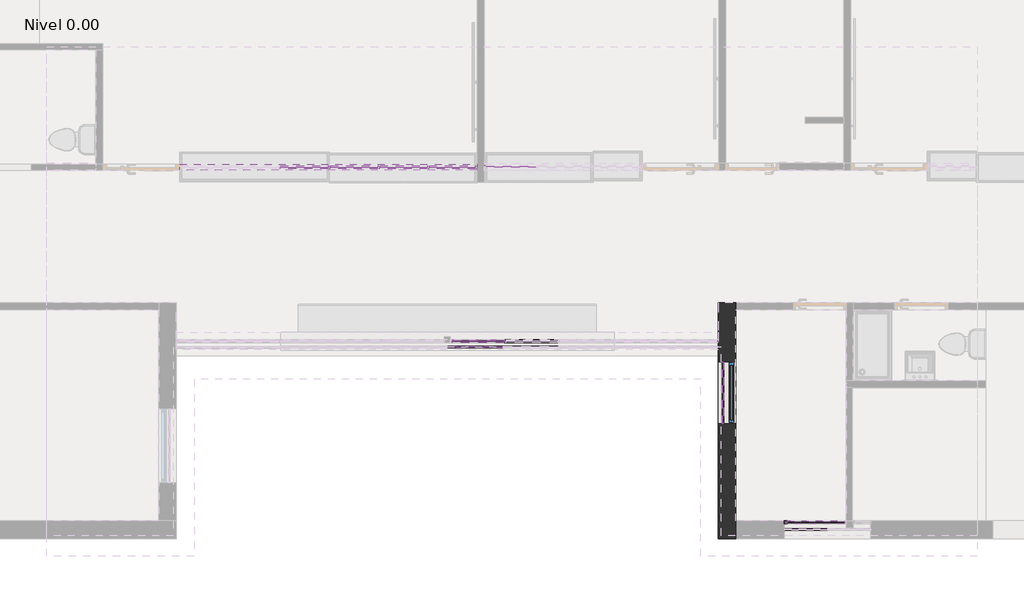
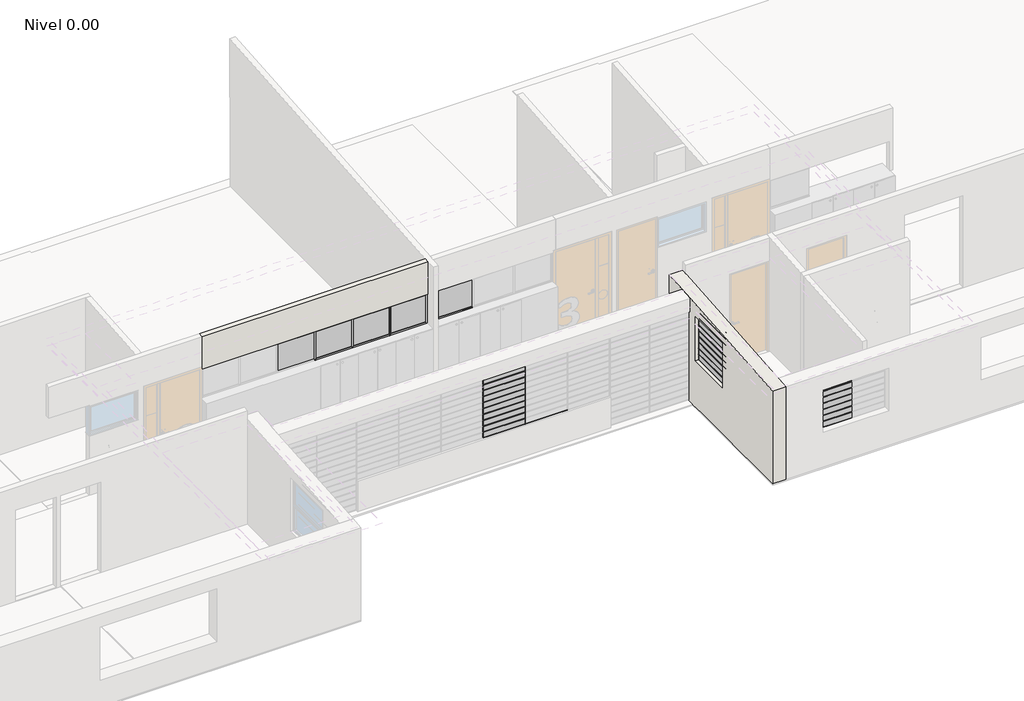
# One storey, part 6 of 27: 88 members, 35 plates, 2 walls, 1 window.
"""IFC4 building model written with IfcOpenShell, lengths in millimetres."""

from ifc_helpers import new_model, si_unit, origin, place, context, project, spatial, faceted_brep, transform, mapped, element, save
from components import circular_mullion_14d4c897, circular_mullion_0b75121d, l_corner_mullion_2c31851b, l_corner_mullion_3b3bdf5d, l_corner_mullion_e48bd2cc, rectangular_mullion_a87e72df, rectangular_mullion_a4ea75e5, rectangular_mullion_8e38926e, rectangular_mullion_22ee7f7e, rectangular_mullion_6697ab7a, rectangular_mullion_1d964787, rectangular_mullion_5c6d569c, rectangular_mullion_4dd96a3e, rectangular_mullion_127908d6, rectangular_mullion_2d022f73, rectangular_mullion_5442057b, rectangular_mullion_9a28259a, rectangular_mullion_af5448d7, system_panel_948e591e, system_panel_a232d2f8, system_panel_3d32e46b, system_panel_766ca25a, system_panel_aec64191, system_panel_3b88cb66, system_panel_glazed_aa347208, system_panel_glazed_ecabccd1, system_panel_glazed_4456bc43, system_panel_glazed_bfee9a3a, system_panel_glazed_296a7ac9, system_panel_glazed_04eec869, vp_1250x1250mm_90614fad

model = new_model("IFC4")

# Units and contexts
model_context = context("Model", 3, world=origin())
ifc_project = project(units=[si_unit("LENGTHUNIT", "METRE", prefix="MILLI")], contexts=[model_context])

# Site, building, storey
site = spatial("IfcSite", under=ifc_project)
building = spatial("IfcBuilding", under=site)
storey = spatial("IfcBuildingStorey", under=building, Name="Nivel 0.00", Elevation=0.0)

# Members
placement = place(None, origin())
circular_mullion_shape = circular_mullion_14d4c897(model_context)
element("IfcMember", 1, ObjectType="Circular Mullion : ARQ_HERR_16mm", at=placement, inside=storey, context=model_context, shape_type="MappedRepresentation", body=[
    mapped(circular_mullion_shape, transform((-431.312506, -3840.5609004, 840.0), x_axis=(0.0, 0.0, 1.0), y_axis=(0.0, -1.0, 0.0), z_axis=(1.0, 0.0, 0.0))),
])
element("IfcMember", 2, ObjectType="Circular Mullion : ARQ_HERR_16mm", at=placement, inside=storey, context=model_context, shape_type="MappedRepresentation", body=[
    mapped(circular_mullion_shape, transform((-431.312506, -3840.5609004, 980.0), x_axis=(0.0, 0.0, 1.0), y_axis=(0.0, -1.0, 0.0), z_axis=(1.0, 0.0, 0.0))),
])
element("IfcMember", 3, ObjectType="Circular Mullion : ARQ_HERR_16mm", at=placement, inside=storey, context=model_context, shape_type="MappedRepresentation", body=[
    mapped(circular_mullion_shape, transform((-431.312506, -3840.5609004, 1120.0), x_axis=(0.0, 0.0, 1.0), y_axis=(0.0, -1.0, 0.0), z_axis=(1.0, 0.0, 0.0))),
])
element("IfcMember", 4, ObjectType="Circular Mullion : ARQ_HERR_16mm", at=placement, inside=storey, context=model_context, shape_type="MappedRepresentation", body=[
    mapped(circular_mullion_shape, transform((-431.312506, -3840.5609004, 1260.0), x_axis=(0.0, 0.0, 1.0), y_axis=(0.0, -1.0, 0.0), z_axis=(1.0, 0.0, 0.0))),
])
element("IfcMember", 5, ObjectType="Circular Mullion : ARQ_HERR_16mm", at=placement, inside=storey, context=model_context, shape_type="MappedRepresentation", body=[
    mapped(circular_mullion_shape, transform((-431.312506, -3840.5609004, 1400.0), x_axis=(0.0, 0.0, 1.0), y_axis=(0.0, -1.0, 0.0), z_axis=(1.0, 0.0, 0.0))),
])
element("IfcMember", 6, ObjectType="Circular Mullion : ARQ_HERR_16mm", at=placement, inside=storey, context=model_context, shape_type="MappedRepresentation", body=[
    mapped(circular_mullion_shape, transform((-431.312506, -3840.5609004, 1540.0), x_axis=(0.0, 0.0, 1.0), y_axis=(0.0, -1.0, 0.0), z_axis=(1.0, 0.0, 0.0))),
])
element("IfcMember", 7, ObjectType="Circular Mullion : ARQ_HERR_16mm", at=placement, inside=storey, context=model_context, shape_type="MappedRepresentation", body=[
    mapped(circular_mullion_shape, transform((-431.312506, -3840.5609004, 1680.0), x_axis=(0.0, 0.0, 1.0), y_axis=(0.0, -1.0, 0.0), z_axis=(1.0, 0.0, 0.0))),
])
element("IfcMember", 8, ObjectType="Circular Mullion : ARQ_HERR_16mm", at=placement, inside=storey, context=model_context, shape_type="MappedRepresentation", body=[
    mapped(circular_mullion_shape, transform((-431.312506, -3840.5609004, 1820.0), x_axis=(0.0, 0.0, 1.0), y_axis=(0.0, -1.0, 0.0), z_axis=(1.0, 0.0, 0.0))),
])
element("IfcMember", 9, ObjectType="Circular Mullion : ARQ_HERR_16mm", at=placement, inside=storey, context=model_context, shape_type="MappedRepresentation", body=[
    mapped(circular_mullion_shape, transform((-431.312506, -3840.5609004, 1960.0), x_axis=(0.0, 0.0, 1.0), y_axis=(0.0, -1.0, 0.0), z_axis=(1.0, 0.0, 0.0))),
])
circular_mullion_2_shape = circular_mullion_0b75121d(model_context)
element("IfcMember", 10, ObjectType="Circular Mullion : ARQ_HERR_16mm", at=placement, inside=storey, context=model_context, shape_type="MappedRepresentation", body=[
    mapped(circular_mullion_2_shape, transform((3307.0018142, -5134.5295482, 1198.8888889), x_axis=(0.0, 0.0, 1.0), y_axis=(-1.0, 0.0, 0.0), z_axis=(0.0, -1.0, 0.0))),
])
element("IfcMember", 11, ObjectType="Circular Mullion : ARQ_HERR_16mm", at=placement, inside=storey, context=model_context, shape_type="MappedRepresentation", body=[
    mapped(circular_mullion_2_shape, transform((3307.0018142, -5134.5295482, 1337.7777778), x_axis=(0.0, 0.0, 1.0), y_axis=(-1.0, 0.0, 0.0), z_axis=(0.0, -1.0, 0.0))),
])
element("IfcMember", 12, ObjectType="Circular Mullion : ARQ_HERR_16mm", at=placement, inside=storey, context=model_context, shape_type="MappedRepresentation", body=[
    mapped(circular_mullion_2_shape, transform((3307.0018142, -5134.5295482, 1476.6666667), x_axis=(0.0, 0.0, 1.0), y_axis=(-1.0, 0.0, 0.0), z_axis=(0.0, -1.0, 0.0))),
])
element("IfcMember", 13, ObjectType="Circular Mullion : ARQ_HERR_16mm", at=placement, inside=storey, context=model_context, shape_type="MappedRepresentation", body=[
    mapped(circular_mullion_2_shape, transform((3307.0018142, -5134.5295482, 1615.5555556), x_axis=(0.0, 0.0, 1.0), y_axis=(-1.0, 0.0, 0.0), z_axis=(0.0, -1.0, 0.0))),
])
element("IfcMember", 14, ObjectType="Circular Mullion : ARQ_HERR_16mm", at=placement, inside=storey, context=model_context, shape_type="MappedRepresentation", body=[
    mapped(circular_mullion_2_shape, transform((3307.0018142, -5134.5295482, 1754.4444444), x_axis=(0.0, 0.0, 1.0), y_axis=(-1.0, 0.0, 0.0), z_axis=(0.0, -1.0, 0.0))),
])
element("IfcMember", 15, ObjectType="Circular Mullion : ARQ_HERR_16mm", at=placement, inside=storey, context=model_context, shape_type="MappedRepresentation", body=[
    mapped(circular_mullion_2_shape, transform((3307.0018142, -5134.5295482, 1893.3333333), x_axis=(0.0, 0.0, 1.0), y_axis=(-1.0, 0.0, 0.0), z_axis=(0.0, -1.0, 0.0))),
])
element("IfcMember", 16, ObjectType="Circular Mullion : ARQ_HERR_16mm", at=placement, inside=storey, context=model_context, shape_type="MappedRepresentation", body=[
    mapped(circular_mullion_2_shape, transform((3307.0018142, -5134.5295482, 2032.2222222), x_axis=(0.0, 0.0, 1.0), y_axis=(-1.0, 0.0, 0.0), z_axis=(0.0, -1.0, 0.0))),
])
element("IfcMember", 17, ObjectType="Circular Mullion : ARQ_HERR_16mm", at=placement, inside=storey, context=model_context, shape_type="MappedRepresentation", body=[
    mapped(circular_mullion_2_shape, transform((3307.0018142, -5134.5295482, 2171.1111111), x_axis=(0.0, 0.0, 1.0), y_axis=(-1.0, 0.0, 0.0), z_axis=(0.0, -1.0, 0.0))),
])
l_corner_mullion_shape = l_corner_mullion_2c31851b(model_context)
element("IfcMember", 18, ObjectType="L Corner Mullion : ARQ_HERR_15X6mm", at=placement, inside=storey, context=model_context, shape_type="MappedRepresentation", body=[
    mapped(l_corner_mullion_shape, transform((-431.312506, -3840.5609004, 2100.0), x_axis=(0.0, 0.0, 1.0), y_axis=(0.0, -1.0, 0.0), z_axis=(1.0, 0.0, 0.0))),
])
element("IfcMember", 19, ObjectType="L Corner Mullion : ARQ_HERR_15X6mm", at=placement, inside=storey, context=model_context, shape_type="MappedRepresentation", body=[
    mapped(l_corner_mullion_shape, transform((-1367.4983221, -3840.5609004, 700.0), x_axis=(0.0, 0.0, -1.0), y_axis=(0.0, -1.0, 0.0), z_axis=(-1.0, 0.0, 0.0))),
])
element("IfcMember", 20, ObjectType="L Corner Mullion : ARQ_HERR_15X6mm", at=placement, inside=storey, context=model_context, shape_type="MappedRepresentation", body=[
    mapped(l_corner_mullion_shape, transform((-425.312506, -3840.5609004, 700.0), x_axis=(0.0, 0.0, -1.0), y_axis=(0.0, -1.0, 0.0), z_axis=(-1.0, 0.0, 0.0))),
])
l_corner_mullion_2_shape = l_corner_mullion_3b3bdf5d(model_context)
element("IfcMember", 21, ObjectType="L Corner Mullion : ARQ_HERR_15X6mm", at=placement, inside=storey, context=model_context, shape_type="MappedRepresentation", body=[
    mapped(l_corner_mullion_2_shape, transform((4356.213835, -6940.6055729, 800.0), x_axis=(0.0, 0.0, -1.0), y_axis=(0.0, -1.0, 0.0), z_axis=(-1.0, 0.0, 0.0))),
])
l_corner_mullion_3_shape = l_corner_mullion_e48bd2cc(model_context)
element("IfcMember", 22, ObjectType="L Corner Mullion : ARQ_HERR_15X6mm", at=placement, inside=storey, context=model_context, shape_type="MappedRepresentation", body=[
    mapped(l_corner_mullion_3_shape, transform((3307.0018142, -5134.5295482, 2310.0), x_axis=(0.0, 0.0, 1.0), y_axis=(-1.0, 0.0, 0.0), z_axis=(0.0, -1.0, 0.0))),
])
element("IfcMember", 23, ObjectType="L Corner Mullion : ARQ_HERR_15X6mm", at=placement, inside=storey, context=model_context, shape_type="MappedRepresentation", body=[
    mapped(l_corner_mullion_3_shape, transform((3307.0018142, -4096.5295482, 1060.0), x_axis=(0.0, 0.0, -1.0), y_axis=(-1.0, 0.0, 0.0), z_axis=(0.0, 1.0, 0.0))),
])
rectangular_mullion_shape = rectangular_mullion_a87e72df(model_context)
element("IfcMember", 24, ObjectType="Rectangular Mullion : ARQ_TV_MULL_50x30mm", at=placement, inside=storey, context=model_context, shape_type="MappedRepresentation", body=[
    mapped(rectangular_mullion_shape, transform((-389.3950399, -3740.5609004, 700.0), x_axis=(1.0, 0.0, 0.0), y_axis=(0.0, -1.0, 0.0), z_axis=(0.0, 0.0, -1.0))),
])
element("IfcMember", 25, ObjectType="Rectangular Mullion : ARQ_TV_MULL_50x30mm", at=placement, inside=storey, context=model_context, shape_type="MappedRepresentation", body=[
    mapped(rectangular_mullion_shape, transform((-389.3950399, -3740.5609004, 1400.0), x_axis=(1.0, 0.0, 0.0), y_axis=(0.0, -1.0, 0.0), z_axis=(0.0, 0.0, -1.0))),
])
rectangular_mullion_2_shape = rectangular_mullion_a4ea75e5(model_context)
element("IfcMember", 26, ObjectType="Rectangular Mullion : ARQ_TV_MULL_50x30mm", at=placement, inside=storey, context=model_context, shape_type="MappedRepresentation", body=[
    mapped(rectangular_mullion_2_shape, transform((-404.3950399, -3740.5609004, 2100.0), x_axis=(0.0, 0.0, 1.0), y_axis=(0.0, -1.0, 0.0), z_axis=(1.0, 0.0, 0.0))),
])
element("IfcMember", 27, ObjectType="Rectangular Mullion : ARQ_TV_MULL_50x30mm", at=placement, inside=storey, context=model_context, shape_type="MappedRepresentation", body=[
    mapped(rectangular_mullion_2_shape, transform((-374.3950399, -3740.5609004, 700.0), x_axis=(0.0, 0.0, -1.0), y_axis=(0.0, -1.0, 0.0), z_axis=(-1.0, 0.0, 0.0))),
])
rectangular_mullion_3_shape = rectangular_mullion_8e38926e(model_context)
element("IfcMember", 28, ObjectType="Rectangular Mullion : ARQ_TV_MULL_50x30mm", at=placement, inside=storey, context=model_context, shape_type="MappedRepresentation", body=[
    mapped(rectangular_mullion_3_shape, transform((-404.3950399, -3740.5609004, 1400.0), x_axis=(0.0, 0.0, 1.0), y_axis=(0.0, -1.0, 0.0), z_axis=(1.0, 0.0, 0.0))),
])
rectangular_mullion_4_shape = rectangular_mullion_22ee7f7e(model_context)
element("IfcMember", 29, ObjectType="Rectangular Mullion : ARQ_TV_MULL_50x30mm", at=placement, inside=storey, context=model_context, shape_type="MappedRepresentation", body=[
    mapped(rectangular_mullion_4_shape, transform((4380.213835, -6815.6055729, 1800.0), x_axis=(0.0, 0.0, 1.0), y_axis=(0.0, 1.0, 0.0), z_axis=(-1.0, 0.0, 0.0))),
])
rectangular_mullion_5_shape = rectangular_mullion_6697ab7a(model_context)
element("IfcMember", 30, ObjectType="Rectangular Mullion : ARQ_TV_MULL_50x30mm", at=placement, inside=storey, context=model_context, shape_type="MappedRepresentation", body=[
    mapped(rectangular_mullion_5_shape, transform((4399.9777621, -6815.6055729, 1800.0), x_axis=(0.0, 0.0, 1.0), y_axis=(0.0, 1.0, 0.0), z_axis=(-1.0, 0.0, 0.0))),
])
element("IfcMember", 31, ObjectType="Rectangular Mullion : ARQ_TV_MULL_50x30mm", at=placement, inside=storey, context=model_context, shape_type="MappedRepresentation", body=[
    mapped(rectangular_mullion_4_shape, transform((4399.9777621, -6815.6055729, 800.0), x_axis=(0.0, 0.0, -1.0), y_axis=(0.0, 1.0, 0.0), z_axis=(1.0, 0.0, 0.0))),
])
rectangular_mullion_6_shape = rectangular_mullion_1d964787(model_context)
element("IfcMember", 32, ObjectType="Rectangular Mullion : ARQ_TV_MULL_50x30mm", at=placement, inside=storey, context=model_context, shape_type="MappedRepresentation", body=[
    mapped(rectangular_mullion_6_shape, transform((4350.213835, -6815.6055729, 800.0), x_axis=(-1.0, 0.0, 0.0), y_axis=(0.0, 1.0, 0.0), z_axis=(0.0, 0.0, -1.0))),
])
element("IfcMember", 33, ObjectType="Rectangular Mullion : ARQ_TV_MULL_50x30mm", at=placement, inside=storey, context=model_context, shape_type="MappedRepresentation", body=[
    mapped(rectangular_mullion_shape, transform((-3375.5808877, -790.6078399, 1400.0), x_axis=(1.0, 0.0, 0.0), y_axis=(0.0, -1.0, 0.0), z_axis=(0.0, 0.0, -1.0))),
])
element("IfcMember", 34, ObjectType="Rectangular Mullion : ARQ_TV_MULL_50x30mm", at=placement, inside=storey, context=model_context, shape_type="MappedRepresentation", body=[
    mapped(rectangular_mullion_shape, transform((-2533.9103629, -790.6078399, 1400.0), x_axis=(1.0, 0.0, 0.0), y_axis=(0.0, -1.0, 0.0), z_axis=(0.0, 0.0, -1.0))),
])
element("IfcMember", 35, ObjectType="Rectangular Mullion : ARQ_TV_MULL_50x30mm", at=placement, inside=storey, context=model_context, shape_type="MappedRepresentation", body=[
    mapped(rectangular_mullion_shape, transform((-1692.239838, -790.6078399, 1400.0), x_axis=(1.0, 0.0, 0.0), y_axis=(0.0, -1.0, 0.0), z_axis=(0.0, 0.0, -1.0))),
])
rectangular_mullion_7_shape = rectangular_mullion_5c6d569c(model_context)
element("IfcMember", 36, ObjectType="Rectangular Mullion : ARQ_TV_MULL_50x30mm", at=placement, inside=storey, context=model_context, shape_type="MappedRepresentation", body=[
    mapped(rectangular_mullion_7_shape, transform((-865.5693128, -790.6078399, 1400.0), x_axis=(1.0, 0.0, 0.0), y_axis=(0.0, -1.0, 0.0), z_axis=(0.0, 0.0, -1.0))),
])
element("IfcMember", 37, ObjectType="Rectangular Mullion : ARQ_TV_MULL_50x30mm", at=placement, inside=storey, context=model_context, shape_type="MappedRepresentation", body=[
    mapped(rectangular_mullion_7_shape, transform((-745.5693128, -780.6047653, 2100.0), x_axis=(-1.0, 0.0, 0.0), y_axis=(0.0, -1.0, 0.0), z_axis=(0.0, 0.0, 1.0))),
])
rectangular_mullion_8_shape = rectangular_mullion_4dd96a3e(model_context)
element("IfcMember", 38, ObjectType="Rectangular Mullion : ARQ_TV_MULL_50x30mm", at=placement, inside=storey, context=model_context, shape_type="MappedRepresentation", body=[
    mapped(rectangular_mullion_8_shape, transform((-895.5693128, -790.6078399, 2100.0), x_axis=(0.0, 0.0, 1.0), y_axis=(0.0, -1.0, 0.0), z_axis=(1.0, 0.0, 0.0))),
])
rectangular_mullion_9_shape = rectangular_mullion_127908d6(model_context)
element("IfcMember", 39, ObjectType="Rectangular Mullion : ARQ_TV_MULL_50x30mm", at=placement, inside=storey, context=model_context, shape_type="MappedRepresentation", body=[
    mapped(rectangular_mullion_9_shape, transform((-3390.5808877, -790.6078399, 2100.0), x_axis=(0.0, 0.0, 1.0), y_axis=(0.0, -1.0, 0.0), z_axis=(1.0, 0.0, 0.0))),
])
element("IfcMember", 40, ObjectType="Rectangular Mullion : ARQ_TV_MULL_50x30mm", at=placement, inside=storey, context=model_context, shape_type="MappedRepresentation", body=[
    mapped(rectangular_mullion_9_shape, transform((-2548.9103629, -790.6078399, 2100.0), x_axis=(0.0, 0.0, 1.0), y_axis=(0.0, -1.0, 0.0), z_axis=(1.0, 0.0, 0.0))),
])
element("IfcMember", 41, ObjectType="Rectangular Mullion : ARQ_TV_MULL_50x30mm", at=placement, inside=storey, context=model_context, shape_type="MappedRepresentation", body=[
    mapped(rectangular_mullion_9_shape, transform((-1707.239838, -790.6078399, 2100.0), x_axis=(0.0, 0.0, 1.0), y_axis=(0.0, -1.0, 0.0), z_axis=(1.0, 0.0, 0.0))),
])
element("IfcMember", 42, ObjectType="Rectangular Mullion : ARQ_TV_MULL_50x30mm", at=placement, inside=storey, context=model_context, shape_type="MappedRepresentation", body=[
    mapped(rectangular_mullion_9_shape, transform((-3360.5808877, -790.6078399, 1400.0), x_axis=(0.0, 0.0, -1.0), y_axis=(0.0, -1.0, 0.0), z_axis=(-1.0, 0.0, 0.0))),
])
element("IfcMember", 43, ObjectType="Rectangular Mullion : ARQ_TV_MULL_50x30mm", at=placement, inside=storey, context=model_context, shape_type="MappedRepresentation", body=[
    mapped(rectangular_mullion_9_shape, transform((-2518.9103629, -790.6078399, 1400.0), x_axis=(0.0, 0.0, -1.0), y_axis=(0.0, -1.0, 0.0), z_axis=(-1.0, 0.0, 0.0))),
])
element("IfcMember", 44, ObjectType="Rectangular Mullion : ARQ_TV_MULL_50x30mm", at=placement, inside=storey, context=model_context, shape_type="MappedRepresentation", body=[
    mapped(rectangular_mullion_8_shape, transform((-1677.239838, -790.6078399, 1400.0), x_axis=(0.0, 0.0, -1.0), y_axis=(0.0, -1.0, 0.0), z_axis=(-1.0, 0.0, 0.0))),
])
rectangular_mullion_10_shape = rectangular_mullion_2d022f73(model_context)
element("IfcMember", 45, ObjectType="Rectangular Mullion : ARQ_TV_MULL_50x30mm", at=placement, inside=storey, context=model_context, shape_type="MappedRepresentation", body=[
    mapped(rectangular_mullion_10_shape, transform((-715.5693128, -780.6047653, 1400.0), x_axis=(0.0, 0.0, -1.0), y_axis=(0.0, -1.0, 0.0), z_axis=(-1.0, 0.0, 0.0))),
])
rectangular_mullion_11_shape = rectangular_mullion_5442057b(model_context)
element("IfcMember", 46, ObjectType="Rectangular Mullion : ARQ_HERR_15X6mm", at=placement, inside=storey, context=model_context, shape_type="MappedRepresentation", body=[
    mapped(rectangular_mullion_11_shape, transform((-1370.4983221, -3840.5609004, 700.0), x_axis=(1.0, 0.0, 0.0), y_axis=(0.0, -1.0, 0.0), z_axis=(0.0, 0.0, -1.0))),
])
element("IfcMember", 47, ObjectType="Rectangular Mullion : ARQ_HERR_15X6mm", at=placement, inside=storey, context=model_context, shape_type="MappedRepresentation", body=[
    mapped(rectangular_mullion_11_shape, transform((-428.312506, -3840.5609004, 700.0), x_axis=(1.0, 0.0, 0.0), y_axis=(0.0, -1.0, 0.0), z_axis=(0.0, 0.0, -1.0))),
])
element("IfcMember", 48, ObjectType="Rectangular Mullion : ARQ_HERR_15X6mm", at=placement, inside=storey, context=model_context, shape_type="MappedRepresentation", body=[
    mapped(rectangular_mullion_11_shape, transform((-1370.4983221, -3840.5609004, 840.0), x_axis=(1.0, 0.0, 0.0), y_axis=(0.0, -1.0, 0.0), z_axis=(0.0, 0.0, -1.0))),
])
element("IfcMember", 49, ObjectType="Rectangular Mullion : ARQ_HERR_15X6mm", at=placement, inside=storey, context=model_context, shape_type="MappedRepresentation", body=[
    mapped(rectangular_mullion_11_shape, transform((-428.312506, -3840.5609004, 840.0), x_axis=(1.0, 0.0, 0.0), y_axis=(0.0, -1.0, 0.0), z_axis=(0.0, 0.0, -1.0))),
])
element("IfcMember", 50, ObjectType="Rectangular Mullion : ARQ_HERR_15X6mm", at=placement, inside=storey, context=model_context, shape_type="MappedRepresentation", body=[
    mapped(rectangular_mullion_11_shape, transform((-1370.4983221, -3840.5609004, 980.0), x_axis=(1.0, 0.0, 0.0), y_axis=(0.0, -1.0, 0.0), z_axis=(0.0, 0.0, -1.0))),
])
element("IfcMember", 51, ObjectType="Rectangular Mullion : ARQ_HERR_15X6mm", at=placement, inside=storey, context=model_context, shape_type="MappedRepresentation", body=[
    mapped(rectangular_mullion_11_shape, transform((-428.312506, -3840.5609004, 980.0), x_axis=(1.0, 0.0, 0.0), y_axis=(0.0, -1.0, 0.0), z_axis=(0.0, 0.0, -1.0))),
])
element("IfcMember", 52, ObjectType="Rectangular Mullion : ARQ_HERR_15X6mm", at=placement, inside=storey, context=model_context, shape_type="MappedRepresentation", body=[
    mapped(rectangular_mullion_11_shape, transform((-1370.4983221, -3840.5609004, 1120.0), x_axis=(1.0, 0.0, 0.0), y_axis=(0.0, -1.0, 0.0), z_axis=(0.0, 0.0, -1.0))),
])
element("IfcMember", 53, ObjectType="Rectangular Mullion : ARQ_HERR_15X6mm", at=placement, inside=storey, context=model_context, shape_type="MappedRepresentation", body=[
    mapped(rectangular_mullion_11_shape, transform((-428.312506, -3840.5609004, 1120.0), x_axis=(1.0, 0.0, 0.0), y_axis=(0.0, -1.0, 0.0), z_axis=(0.0, 0.0, -1.0))),
])
element("IfcMember", 54, ObjectType="Rectangular Mullion : ARQ_HERR_15X6mm", at=placement, inside=storey, context=model_context, shape_type="MappedRepresentation", body=[
    mapped(rectangular_mullion_11_shape, transform((-1370.4983221, -3840.5609004, 1260.0), x_axis=(1.0, 0.0, 0.0), y_axis=(0.0, -1.0, 0.0), z_axis=(0.0, 0.0, -1.0))),
])
element("IfcMember", 55, ObjectType="Rectangular Mullion : ARQ_HERR_15X6mm", at=placement, inside=storey, context=model_context, shape_type="MappedRepresentation", body=[
    mapped(rectangular_mullion_11_shape, transform((-428.312506, -3840.5609004, 1260.0), x_axis=(1.0, 0.0, 0.0), y_axis=(0.0, -1.0, 0.0), z_axis=(0.0, 0.0, -1.0))),
])
element("IfcMember", 56, ObjectType="Rectangular Mullion : ARQ_HERR_15X6mm", at=placement, inside=storey, context=model_context, shape_type="MappedRepresentation", body=[
    mapped(rectangular_mullion_11_shape, transform((-1370.4983221, -3840.5609004, 1400.0), x_axis=(1.0, 0.0, 0.0), y_axis=(0.0, -1.0, 0.0), z_axis=(0.0, 0.0, -1.0))),
])
element("IfcMember", 57, ObjectType="Rectangular Mullion : ARQ_HERR_15X6mm", at=placement, inside=storey, context=model_context, shape_type="MappedRepresentation", body=[
    mapped(rectangular_mullion_11_shape, transform((-428.312506, -3840.5609004, 1400.0), x_axis=(1.0, 0.0, 0.0), y_axis=(0.0, -1.0, 0.0), z_axis=(0.0, 0.0, -1.0))),
])
element("IfcMember", 58, ObjectType="Rectangular Mullion : ARQ_HERR_15X6mm", at=placement, inside=storey, context=model_context, shape_type="MappedRepresentation", body=[
    mapped(rectangular_mullion_11_shape, transform((-1370.4983221, -3840.5609004, 1540.0), x_axis=(1.0, 0.0, 0.0), y_axis=(0.0, -1.0, 0.0), z_axis=(0.0, 0.0, -1.0))),
])
element("IfcMember", 59, ObjectType="Rectangular Mullion : ARQ_HERR_15X6mm", at=placement, inside=storey, context=model_context, shape_type="MappedRepresentation", body=[
    mapped(rectangular_mullion_11_shape, transform((-428.312506, -3840.5609004, 1540.0), x_axis=(1.0, 0.0, 0.0), y_axis=(0.0, -1.0, 0.0), z_axis=(0.0, 0.0, -1.0))),
])
element("IfcMember", 60, ObjectType="Rectangular Mullion : ARQ_HERR_15X6mm", at=placement, inside=storey, context=model_context, shape_type="MappedRepresentation", body=[
    mapped(rectangular_mullion_11_shape, transform((-1370.4983221, -3840.5609004, 1680.0), x_axis=(1.0, 0.0, 0.0), y_axis=(0.0, -1.0, 0.0), z_axis=(0.0, 0.0, -1.0))),
])
element("IfcMember", 61, ObjectType="Rectangular Mullion : ARQ_HERR_15X6mm", at=placement, inside=storey, context=model_context, shape_type="MappedRepresentation", body=[
    mapped(rectangular_mullion_11_shape, transform((-428.312506, -3840.5609004, 1680.0), x_axis=(1.0, 0.0, 0.0), y_axis=(0.0, -1.0, 0.0), z_axis=(0.0, 0.0, -1.0))),
])
element("IfcMember", 62, ObjectType="Rectangular Mullion : ARQ_HERR_15X6mm", at=placement, inside=storey, context=model_context, shape_type="MappedRepresentation", body=[
    mapped(rectangular_mullion_11_shape, transform((-1370.4983221, -3840.5609004, 1820.0), x_axis=(1.0, 0.0, 0.0), y_axis=(0.0, -1.0, 0.0), z_axis=(0.0, 0.0, -1.0))),
])
element("IfcMember", 63, ObjectType="Rectangular Mullion : ARQ_HERR_15X6mm", at=placement, inside=storey, context=model_context, shape_type="MappedRepresentation", body=[
    mapped(rectangular_mullion_11_shape, transform((-428.312506, -3840.5609004, 1820.0), x_axis=(1.0, 0.0, 0.0), y_axis=(0.0, -1.0, 0.0), z_axis=(0.0, 0.0, -1.0))),
])
element("IfcMember", 64, ObjectType="Rectangular Mullion : ARQ_HERR_15X6mm", at=placement, inside=storey, context=model_context, shape_type="MappedRepresentation", body=[
    mapped(rectangular_mullion_11_shape, transform((-1370.4983221, -3840.5609004, 1960.0), x_axis=(1.0, 0.0, 0.0), y_axis=(0.0, -1.0, 0.0), z_axis=(0.0, 0.0, -1.0))),
])
element("IfcMember", 65, ObjectType="Rectangular Mullion : ARQ_HERR_15X6mm", at=placement, inside=storey, context=model_context, shape_type="MappedRepresentation", body=[
    mapped(rectangular_mullion_11_shape, transform((-428.312506, -3840.5609004, 1960.0), x_axis=(1.0, 0.0, 0.0), y_axis=(0.0, -1.0, 0.0), z_axis=(0.0, 0.0, -1.0))),
])
rectangular_mullion_12_shape = rectangular_mullion_9a28259a(model_context)
element("IfcMember", 66, ObjectType="Rectangular Mullion : ARQ_HERR_15X6mm", at=placement, inside=storey, context=model_context, shape_type="MappedRepresentation", body=[
    mapped(rectangular_mullion_12_shape, transform((3307.0018142, -5140.5295482, 1060.0), x_axis=(0.0, -1.0, 0.0), y_axis=(-1.0, 0.0, 0.0), z_axis=(0.0, 0.0, -1.0))),
])
element("IfcMember", 67, ObjectType="Rectangular Mullion : ARQ_HERR_15X6mm", at=placement, inside=storey, context=model_context, shape_type="MappedRepresentation", body=[
    mapped(rectangular_mullion_12_shape, transform((3307.0018142, -5140.5295482, 1198.8888889), x_axis=(0.0, -1.0, 0.0), y_axis=(-1.0, 0.0, 0.0), z_axis=(0.0, 0.0, -1.0))),
])
element("IfcMember", 68, ObjectType="Rectangular Mullion : ARQ_HERR_15X6mm", at=placement, inside=storey, context=model_context, shape_type="MappedRepresentation", body=[
    mapped(rectangular_mullion_12_shape, transform((3307.0018142, -5140.5295482, 1337.7777778), x_axis=(0.0, -1.0, 0.0), y_axis=(-1.0, 0.0, 0.0), z_axis=(0.0, 0.0, -1.0))),
])
element("IfcMember", 69, ObjectType="Rectangular Mullion : ARQ_HERR_15X6mm", at=placement, inside=storey, context=model_context, shape_type="MappedRepresentation", body=[
    mapped(rectangular_mullion_12_shape, transform((3307.0018142, -5140.5295482, 1476.6666667), x_axis=(0.0, -1.0, 0.0), y_axis=(-1.0, 0.0, 0.0), z_axis=(0.0, 0.0, -1.0))),
])
element("IfcMember", 70, ObjectType="Rectangular Mullion : ARQ_HERR_15X6mm", at=placement, inside=storey, context=model_context, shape_type="MappedRepresentation", body=[
    mapped(rectangular_mullion_12_shape, transform((3307.0018142, -5140.5295482, 1615.5555556), x_axis=(0.0, -1.0, 0.0), y_axis=(-1.0, 0.0, 0.0), z_axis=(0.0, 0.0, -1.0))),
])
element("IfcMember", 71, ObjectType="Rectangular Mullion : ARQ_HERR_15X6mm", at=placement, inside=storey, context=model_context, shape_type="MappedRepresentation", body=[
    mapped(rectangular_mullion_12_shape, transform((3307.0018142, -5140.5295482, 1754.4444444), x_axis=(0.0, -1.0, 0.0), y_axis=(-1.0, 0.0, 0.0), z_axis=(0.0, 0.0, -1.0))),
])
element("IfcMember", 72, ObjectType="Rectangular Mullion : ARQ_HERR_15X6mm", at=placement, inside=storey, context=model_context, shape_type="MappedRepresentation", body=[
    mapped(rectangular_mullion_12_shape, transform((3307.0018142, -5140.5295482, 1893.3333333), x_axis=(0.0, -1.0, 0.0), y_axis=(-1.0, 0.0, 0.0), z_axis=(0.0, 0.0, -1.0))),
])
element("IfcMember", 73, ObjectType="Rectangular Mullion : ARQ_HERR_15X6mm", at=placement, inside=storey, context=model_context, shape_type="MappedRepresentation", body=[
    mapped(rectangular_mullion_12_shape, transform((3307.0018142, -5140.5295482, 2032.2222222), x_axis=(0.0, -1.0, 0.0), y_axis=(-1.0, 0.0, 0.0), z_axis=(0.0, 0.0, -1.0))),
])
element("IfcMember", 74, ObjectType="Rectangular Mullion : ARQ_HERR_15X6mm", at=placement, inside=storey, context=model_context, shape_type="MappedRepresentation", body=[
    mapped(rectangular_mullion_12_shape, transform((3307.0018142, -5140.5295482, 2171.1111111), x_axis=(0.0, -1.0, 0.0), y_axis=(-1.0, 0.0, 0.0), z_axis=(0.0, 0.0, -1.0))),
])
element("IfcMember", 75, ObjectType="Rectangular Mullion : ARQ_HERR_15X6mm", at=placement, inside=storey, context=model_context, shape_type="MappedRepresentation", body=[
    mapped(rectangular_mullion_12_shape, transform((3307.0018142, -4090.5295482, 2310.0), x_axis=(0.0, 1.0, 0.0), y_axis=(-1.0, 0.0, 0.0), z_axis=(0.0, 0.0, 1.0))),
])
element("IfcMember", 76, ObjectType="Rectangular Mullion : ARQ_HERR_15X6mm", at=placement, inside=storey, context=model_context, shape_type="MappedRepresentation", body=[
    mapped(rectangular_mullion_12_shape, transform((3307.0018142, -4090.5295482, 1198.8888889), x_axis=(0.0, 1.0, 0.0), y_axis=(-1.0, 0.0, 0.0), z_axis=(0.0, 0.0, 1.0))),
])
element("IfcMember", 77, ObjectType="Rectangular Mullion : ARQ_HERR_15X6mm", at=placement, inside=storey, context=model_context, shape_type="MappedRepresentation", body=[
    mapped(rectangular_mullion_12_shape, transform((3307.0018142, -4090.5295482, 1337.7777778), x_axis=(0.0, 1.0, 0.0), y_axis=(-1.0, 0.0, 0.0), z_axis=(0.0, 0.0, 1.0))),
])
element("IfcMember", 78, ObjectType="Rectangular Mullion : ARQ_HERR_15X6mm", at=placement, inside=storey, context=model_context, shape_type="MappedRepresentation", body=[
    mapped(rectangular_mullion_12_shape, transform((3307.0018142, -4090.5295482, 1476.6666667), x_axis=(0.0, 1.0, 0.0), y_axis=(-1.0, 0.0, 0.0), z_axis=(0.0, 0.0, 1.0))),
])
element("IfcMember", 79, ObjectType="Rectangular Mullion : ARQ_HERR_15X6mm", at=placement, inside=storey, context=model_context, shape_type="MappedRepresentation", body=[
    mapped(rectangular_mullion_12_shape, transform((3307.0018142, -4090.5295482, 1615.5555556), x_axis=(0.0, 1.0, 0.0), y_axis=(-1.0, 0.0, 0.0), z_axis=(0.0, 0.0, 1.0))),
])
element("IfcMember", 80, ObjectType="Rectangular Mullion : ARQ_HERR_15X6mm", at=placement, inside=storey, context=model_context, shape_type="MappedRepresentation", body=[
    mapped(rectangular_mullion_12_shape, transform((3307.0018142, -4090.5295482, 1754.4444444), x_axis=(0.0, 1.0, 0.0), y_axis=(-1.0, 0.0, 0.0), z_axis=(0.0, 0.0, 1.0))),
])
element("IfcMember", 81, ObjectType="Rectangular Mullion : ARQ_HERR_15X6mm", at=placement, inside=storey, context=model_context, shape_type="MappedRepresentation", body=[
    mapped(rectangular_mullion_12_shape, transform((3307.0018142, -4090.5295482, 1893.3333333), x_axis=(0.0, 1.0, 0.0), y_axis=(-1.0, 0.0, 0.0), z_axis=(0.0, 0.0, 1.0))),
])
element("IfcMember", 82, ObjectType="Rectangular Mullion : ARQ_HERR_15X6mm", at=placement, inside=storey, context=model_context, shape_type="MappedRepresentation", body=[
    mapped(rectangular_mullion_12_shape, transform((3307.0018142, -4090.5295482, 2032.2222222), x_axis=(0.0, 1.0, 0.0), y_axis=(-1.0, 0.0, 0.0), z_axis=(0.0, 0.0, 1.0))),
])
element("IfcMember", 83, ObjectType="Rectangular Mullion : ARQ_HERR_15X6mm", at=placement, inside=storey, context=model_context, shape_type="MappedRepresentation", body=[
    mapped(rectangular_mullion_12_shape, transform((3307.0018142, -4090.5295482, 2171.1111111), x_axis=(0.0, 1.0, 0.0), y_axis=(-1.0, 0.0, 0.0), z_axis=(0.0, 0.0, 1.0))),
])
rectangular_mullion_13_shape = rectangular_mullion_af5448d7(model_context)
element("IfcMember", 84, ObjectType="Rectangular Mullion : ARQ_HERR_15X6mm", at=placement, inside=storey, context=model_context, shape_type="MappedRepresentation", body=[
    mapped(rectangular_mullion_13_shape, transform((4350.213835, -6940.6055729, 1800.0), x_axis=(-1.0, 0.0, 0.0), y_axis=(0.0, -1.0, 0.0), z_axis=(0.0, 0.0, 1.0))),
])
element("IfcMember", 85, ObjectType="Rectangular Mullion : ARQ_HERR_15X6mm", at=placement, inside=storey, context=model_context, shape_type="MappedRepresentation", body=[
    mapped(rectangular_mullion_13_shape, transform((4350.213835, -6940.6055729, 942.8571429), x_axis=(-1.0, 0.0, 0.0), y_axis=(0.0, -1.0, 0.0), z_axis=(0.0, 0.0, 1.0))),
])
element("IfcMember", 86, ObjectType="Rectangular Mullion : ARQ_HERR_15X6mm", at=placement, inside=storey, context=model_context, shape_type="MappedRepresentation", body=[
    mapped(rectangular_mullion_13_shape, transform((4350.213835, -6940.6055729, 1085.7142857), x_axis=(-1.0, 0.0, 0.0), y_axis=(0.0, -1.0, 0.0), z_axis=(0.0, 0.0, 1.0))),
])
element("IfcMember", 87, ObjectType="Rectangular Mullion : ARQ_HERR_15X6mm", at=placement, inside=storey, context=model_context, shape_type="MappedRepresentation", body=[
    mapped(rectangular_mullion_13_shape, transform((4350.213835, -6940.6055729, 1228.5714286), x_axis=(-1.0, 0.0, 0.0), y_axis=(0.0, -1.0, 0.0), z_axis=(0.0, 0.0, 1.0))),
])
element("IfcMember", 88, ObjectType="Rectangular Mullion : ARQ_HERR_15X6mm", at=placement, inside=storey, context=model_context, shape_type="MappedRepresentation", body=[
    mapped(rectangular_mullion_13_shape, transform((4350.213835, -6940.6055729, 1371.4285714), x_axis=(-1.0, 0.0, 0.0), y_axis=(0.0, -1.0, 0.0), z_axis=(0.0, 0.0, 1.0))),
])

# Plates
system_panel_shape = system_panel_948e591e(model_context)
element("IfcPlate", 89, ObjectType="System Panel : VACÍO", at=placement, inside=storey, context=model_context, shape_type="MappedRepresentation", body=[
    mapped(system_panel_shape, transform((-899.405414, -3840.5609004, 706.0), x_axis=(1.0, 0.0, 0.0), y_axis=(0.0, 1.0, 0.0), z_axis=(0.0, 0.0, 1.0))),
])
element("IfcPlate", 90, ObjectType="System Panel : VACÍO", at=placement, inside=storey, context=model_context, shape_type="MappedRepresentation", body=[
    mapped(system_panel_shape, transform((-899.405414, -3840.5609004, 1968.0), x_axis=(1.0, 0.0, 0.0), y_axis=(0.0, 1.0, 0.0), z_axis=(0.0, 0.0, 1.0))),
])
system_panel_2_shape = system_panel_a232d2f8(model_context)
element("IfcPlate", 91, ObjectType="System Panel : VACÍO", at=placement, inside=storey, context=model_context, shape_type="MappedRepresentation", body=[
    mapped(system_panel_2_shape, transform((-899.405414, -3840.5609004, 848.0), x_axis=(1.0, 0.0, 0.0), y_axis=(0.0, 1.0, 0.0), z_axis=(0.0, 0.0, 1.0))),
])
element("IfcPlate", 92, ObjectType="System Panel : VACÍO", at=placement, inside=storey, context=model_context, shape_type="MappedRepresentation", body=[
    mapped(system_panel_2_shape, transform((-899.405414, -3840.5609004, 988.0), x_axis=(1.0, 0.0, 0.0), y_axis=(0.0, 1.0, 0.0), z_axis=(0.0, 0.0, 1.0))),
])
element("IfcPlate", 93, ObjectType="System Panel : VACÍO", at=placement, inside=storey, context=model_context, shape_type="MappedRepresentation", body=[
    mapped(system_panel_2_shape, transform((-899.405414, -3840.5609004, 1128.0), x_axis=(1.0, 0.0, 0.0), y_axis=(0.0, 1.0, 0.0), z_axis=(0.0, 0.0, 1.0))),
])
element("IfcPlate", 94, ObjectType="System Panel : VACÍO", at=placement, inside=storey, context=model_context, shape_type="MappedRepresentation", body=[
    mapped(system_panel_2_shape, transform((-899.405414, -3840.5609004, 1268.0), x_axis=(1.0, 0.0, 0.0), y_axis=(0.0, 1.0, 0.0), z_axis=(0.0, 0.0, 1.0))),
])
element("IfcPlate", 95, ObjectType="System Panel : VACÍO", at=placement, inside=storey, context=model_context, shape_type="MappedRepresentation", body=[
    mapped(system_panel_2_shape, transform((-899.405414, -3840.5609004, 1408.0), x_axis=(1.0, 0.0, 0.0), y_axis=(0.0, 1.0, 0.0), z_axis=(0.0, 0.0, 1.0))),
])
element("IfcPlate", 96, ObjectType="System Panel : VACÍO", at=placement, inside=storey, context=model_context, shape_type="MappedRepresentation", body=[
    mapped(system_panel_2_shape, transform((-899.405414, -3840.5609004, 1548.0), x_axis=(1.0, 0.0, 0.0), y_axis=(0.0, 1.0, 0.0), z_axis=(0.0, 0.0, 1.0))),
])
element("IfcPlate", 97, ObjectType="System Panel : VACÍO", at=placement, inside=storey, context=model_context, shape_type="MappedRepresentation", body=[
    mapped(system_panel_2_shape, transform((-899.405414, -3840.5609004, 1688.0), x_axis=(1.0, 0.0, 0.0), y_axis=(0.0, 1.0, 0.0), z_axis=(0.0, 0.0, 1.0))),
])
element("IfcPlate", 98, ObjectType="System Panel : VACÍO", at=placement, inside=storey, context=model_context, shape_type="MappedRepresentation", body=[
    mapped(system_panel_2_shape, transform((-899.405414, -3840.5609004, 1828.0), x_axis=(1.0, 0.0, 0.0), y_axis=(0.0, 1.0, 0.0), z_axis=(0.0, 0.0, 1.0))),
])
system_panel_3_shape = system_panel_3d32e46b(model_context)
element("IfcPlate", 99, ObjectType="System Panel : VACÍO", at=placement, inside=storey, context=model_context, shape_type="MappedRepresentation", body=[
    mapped(system_panel_3_shape, transform((4718.8202338, -6940.6055729, 806.0), x_axis=(1.0, 0.0, 0.0), y_axis=(0.0, 1.0, 0.0), z_axis=(0.0, 0.0, 1.0))),
])
element("IfcPlate", 100, ObjectType="System Panel : VACÍO", at=placement, inside=storey, context=model_context, shape_type="MappedRepresentation", body=[
    mapped(system_panel_3_shape, transform((4718.8202338, -6940.6055729, 1665.1428571), x_axis=(1.0, 0.0, 0.0), y_axis=(0.0, 1.0, 0.0), z_axis=(0.0, 0.0, 1.0))),
])
system_panel_4_shape = system_panel_766ca25a(model_context)
element("IfcPlate", 101, ObjectType="System Panel : VACÍO", at=placement, inside=storey, context=model_context, shape_type="MappedRepresentation", body=[
    mapped(system_panel_4_shape, transform((4718.8202338, -6940.6055729, 950.8571429), x_axis=(1.0, 0.0, 0.0), y_axis=(0.0, 1.0, 0.0), z_axis=(0.0, 0.0, 1.0))),
])
element("IfcPlate", 102, ObjectType="System Panel : VACÍO", at=placement, inside=storey, context=model_context, shape_type="MappedRepresentation", body=[
    mapped(system_panel_4_shape, transform((4718.8202338, -6940.6055729, 1093.7142857), x_axis=(1.0, 0.0, 0.0), y_axis=(0.0, 1.0, 0.0), z_axis=(0.0, 0.0, 1.0))),
])
element("IfcPlate", 103, ObjectType="System Panel : VACÍO", at=placement, inside=storey, context=model_context, shape_type="MappedRepresentation", body=[
    mapped(system_panel_4_shape, transform((4718.8202338, -6940.6055729, 1236.5714286), x_axis=(1.0, 0.0, 0.0), y_axis=(0.0, 1.0, 0.0), z_axis=(0.0, 0.0, 1.0))),
])
element("IfcPlate", 104, ObjectType="System Panel : VACÍO", at=placement, inside=storey, context=model_context, shape_type="MappedRepresentation", body=[
    mapped(system_panel_4_shape, transform((4718.8202338, -6940.6055729, 1379.4285714), x_axis=(1.0, 0.0, 0.0), y_axis=(0.0, 1.0, 0.0), z_axis=(0.0, 0.0, 1.0))),
])
element("IfcPlate", 105, ObjectType="System Panel : VACÍO", at=placement, inside=storey, context=model_context, shape_type="MappedRepresentation", body=[
    mapped(system_panel_4_shape, transform((4718.8202338, -6940.6055729, 1522.2857143), x_axis=(1.0, 0.0, 0.0), y_axis=(0.0, 1.0, 0.0), z_axis=(0.0, 0.0, 1.0))),
])
system_panel_5_shape = system_panel_aec64191(model_context)
element("IfcPlate", 106, ObjectType="System Panel : VACÍO", at=placement, inside=storey, context=model_context, shape_type="MappedRepresentation", body=[
    mapped(system_panel_5_shape, transform((3307.0018142, -4615.5295482, 1066.0), x_axis=(0.0, -1.0, 0.0), y_axis=(1.0, 0.0, 0.0), z_axis=(0.0, 0.0, 1.0))),
])
element("IfcPlate", 107, ObjectType="System Panel : VACÍO", at=placement, inside=storey, context=model_context, shape_type="MappedRepresentation", body=[
    mapped(system_panel_5_shape, transform((3307.0018142, -4615.5295482, 2179.1111111), x_axis=(0.0, -1.0, 0.0), y_axis=(1.0, 0.0, 0.0), z_axis=(0.0, 0.0, 1.0))),
])
system_panel_6_shape = system_panel_3b88cb66(model_context)
element("IfcPlate", 108, ObjectType="System Panel : VACÍO", at=placement, inside=storey, context=model_context, shape_type="MappedRepresentation", body=[
    mapped(system_panel_6_shape, transform((3307.0018142, -4615.5295482, 1206.8888889), x_axis=(0.0, -1.0, 0.0), y_axis=(1.0, 0.0, 0.0), z_axis=(0.0, 0.0, 1.0))),
])
element("IfcPlate", 109, ObjectType="System Panel : VACÍO", at=placement, inside=storey, context=model_context, shape_type="MappedRepresentation", body=[
    mapped(system_panel_6_shape, transform((3307.0018142, -4615.5295482, 1345.7777778), x_axis=(0.0, -1.0, 0.0), y_axis=(1.0, 0.0, 0.0), z_axis=(0.0, 0.0, 1.0))),
])
element("IfcPlate", 110, ObjectType="System Panel : VACÍO", at=placement, inside=storey, context=model_context, shape_type="MappedRepresentation", body=[
    mapped(system_panel_6_shape, transform((3307.0018142, -4615.5295482, 1484.6666667), x_axis=(0.0, -1.0, 0.0), y_axis=(1.0, 0.0, 0.0), z_axis=(0.0, 0.0, 1.0))),
])
element("IfcPlate", 111, ObjectType="System Panel : VACÍO", at=placement, inside=storey, context=model_context, shape_type="MappedRepresentation", body=[
    mapped(system_panel_6_shape, transform((3307.0018142, -4615.5295482, 1623.5555556), x_axis=(0.0, -1.0, 0.0), y_axis=(1.0, 0.0, 0.0), z_axis=(0.0, 0.0, 1.0))),
])
element("IfcPlate", 112, ObjectType="System Panel : VACÍO", at=placement, inside=storey, context=model_context, shape_type="MappedRepresentation", body=[
    mapped(system_panel_6_shape, transform((3307.0018142, -4615.5295482, 1762.4444444), x_axis=(0.0, -1.0, 0.0), y_axis=(1.0, 0.0, 0.0), z_axis=(0.0, 0.0, 1.0))),
])
element("IfcPlate", 113, ObjectType="System Panel : VACÍO", at=placement, inside=storey, context=model_context, shape_type="MappedRepresentation", body=[
    mapped(system_panel_6_shape, transform((3307.0018142, -4615.5295482, 1901.3333333), x_axis=(0.0, -1.0, 0.0), y_axis=(1.0, 0.0, 0.0), z_axis=(0.0, 0.0, 1.0))),
])
element("IfcPlate", 114, ObjectType="System Panel : VACÍO", at=placement, inside=storey, context=model_context, shape_type="MappedRepresentation", body=[
    mapped(system_panel_6_shape, transform((3307.0018142, -4615.5295482, 2040.2222222), x_axis=(0.0, -1.0, 0.0), y_axis=(1.0, 0.0, 0.0), z_axis=(0.0, 0.0, 1.0))),
])
system_panel_glazed_shape = system_panel_glazed_aa347208(model_context)
element("IfcPlate", 115, ObjectType="System Panel : Glazed", at=placement, inside=storey, context=model_context, shape_type="MappedRepresentation", body=[
    mapped(system_panel_glazed_shape, transform((-847.7585816, -3740.5609004, 730.0), x_axis=(1.0, 0.0, 0.0), y_axis=(0.0, 1.0, 0.0), z_axis=(0.0, 0.0, 1.0))),
])
element("IfcPlate", 116, ObjectType="System Panel : Glazed", at=placement, inside=storey, context=model_context, shape_type="MappedRepresentation", body=[
    mapped(system_panel_glazed_shape, transform((-847.7585816, -3740.5609004, 1415.0), x_axis=(1.0, 0.0, 0.0), y_axis=(0.0, 1.0, 0.0), z_axis=(0.0, 0.0, 1.0))),
])
system_panel_glazed_2_shape = system_panel_glazed_ecabccd1(model_context)
element("IfcPlate", 117, ObjectType="System Panel : Glazed", at=placement, inside=storey, context=model_context, shape_type="MappedRepresentation", body=[
    mapped(system_panel_glazed_2_shape, transform((4884.9777622, -6815.6055729, 830.0), x_axis=(-1.0, 0.0, 0.0), y_axis=(0.0, -1.0, 0.0), z_axis=(0.0, 0.0, 1.0))),
])
system_panel_glazed_3_shape = system_panel_glazed_4456bc43(model_context)
element("IfcPlate", 118, ObjectType="System Panel : Glazed", at=placement, inside=storey, context=model_context, shape_type="MappedRepresentation", body=[
    mapped(system_panel_glazed_3_shape, transform((4390.0957986, -6815.6055729, 830.0), x_axis=(-1.0, 0.0, 0.0), y_axis=(0.0, -1.0, 0.0), z_axis=(0.0, 0.0, 1.0))),
])
system_panel_glazed_4_shape = system_panel_glazed_bfee9a3a(model_context)
element("IfcPlate", 119, ObjectType="System Panel : Glazed", at=placement, inside=storey, context=model_context, shape_type="MappedRepresentation", body=[
    mapped(system_panel_glazed_4_shape, transform((-3796.4161502, -790.6078399, 1430.0), x_axis=(1.0, 0.0, 0.0), y_axis=(0.0, 1.0, 0.0), z_axis=(0.0, 0.0, 1.0))),
])
element("IfcPlate", 120, ObjectType="System Panel : Glazed", at=placement, inside=storey, context=model_context, shape_type="MappedRepresentation", body=[
    mapped(system_panel_glazed_4_shape, transform((-2954.7456253, -790.6078399, 1430.0), x_axis=(1.0, 0.0, 0.0), y_axis=(0.0, 1.0, 0.0), z_axis=(0.0, 0.0, 1.0))),
])
element("IfcPlate", 121, ObjectType="System Panel : Glazed", at=placement, inside=storey, context=model_context, shape_type="MappedRepresentation", body=[
    mapped(system_panel_glazed_4_shape, transform((-2113.0751004, -790.6078399, 1430.0), x_axis=(1.0, 0.0, 0.0), y_axis=(0.0, 1.0, 0.0), z_axis=(0.0, 0.0, 1.0))),
])
system_panel_glazed_5_shape = system_panel_glazed_296a7ac9(model_context)
element("IfcPlate", 122, ObjectType="System Panel : Glazed", at=placement, inside=storey, context=model_context, shape_type="MappedRepresentation", body=[
    mapped(system_panel_glazed_5_shape, transform((-1286.4045754, -790.6078399, 1430.0), x_axis=(1.0, 0.0, 0.0), y_axis=(0.0, 1.0, 0.0), z_axis=(0.0, 0.0, 1.0))),
])
system_panel_glazed_6_shape = system_panel_glazed_04eec869(model_context)
element("IfcPlate", 123, ObjectType="System Panel : Glazed", at=placement, inside=storey, context=model_context, shape_type="MappedRepresentation", body=[
    mapped(system_panel_glazed_6_shape, transform((-285.5693128, -780.6047653, 1430.0), x_axis=(1.0, 0.0, 0.0), y_axis=(0.0, 1.0, 0.0), z_axis=(0.0, 0.0, 1.0))),
])

# Walls
element("IfcWall", 124, ObjectType="ARQ_MUR_M02-V_300mm", at=placement, inside=storey, context=model_context, shape_type="Brep", body=[
    faceted_brep([(3227.1464348, -3090.6056693, -20.0), (3227.1464348, -7090.6055729, -20.0), (3227.1464348, -7090.6055729, 2163.4984529), (3227.1464348, -3890.5609004, 2421.1207069), (3227.1464348, -3590.5609004, 2445.272456), (3227.1464348, -3090.6056693, 2485.5217671), (3227.1464348, -4090.5295482, 1060.0), (3227.1464348, -4090.5295482, 2110.0), (3227.1464348, -5140.5295482, 2110.0), (3227.1464348, -5140.5295482, 1060.0), (3527.1464348, -7090.6055729, -20.0), (3527.1464348, -6790.6055729, -20.0), (3527.1464348, -3210.6056693, -20.0), (3527.1464348, -3090.6056693, -20.0), (3527.1464348, -3090.6056693, 2485.5217671), (3527.1464348, -6790.6055729, 2187.650202), (3527.1464348, -7090.6055729, 2163.4984529), (3527.1464348, -4090.5295482, 2110.0), (3527.1464348, -4090.5295482, 1060.0), (3527.1464348, -5140.5295482, 1060.0), (3527.1464348, -5140.5295482, 2110.0)], [[[0, 1, 2, 3, 4, 5], [6, 7, 8, 9]], [[10, 11, 12, 13, 14, 15, 16], [17, 18, 19, 20]], [[1, 0, 13, 12, 11, 10]], [[2, 1, 10, 16]], [[0, 5, 14, 13]], [[5, 4, 3, 2, 16, 15, 14]], [[17, 7, 6, 18]], [[18, 6, 9, 19]], [[19, 9, 8, 20]], [[7, 17, 20, 8]]]),
])
element("IfcWall", 125, ObjectType="ARQ_TAB_T01_100mm", at=placement, inside=storey, context=model_context, shape_type="Brep", body=[
    faceted_brep([(-865.5693128, -840.6078399, 2867.3067831), (-5915.5924627, -840.6078399, 2867.3067831), (-5915.5924627, -840.6078399, 2150.0), (-5915.5924627, -840.6078399, 2100.0), (-865.5693128, -840.6078399, 2100.0), (-5915.5924627, -740.6078399, 2875.3573662), (-865.5693128, -740.6078399, 2875.3573662), (-865.5693128, -740.6078399, 2100.0), (-5915.5924627, -740.6078399, 2100.0), (-5915.5924627, -740.6078399, 2150.0)], [[[0, 1, 2, 3, 4]], [[5, 6, 7, 8, 9]], [[1, 5, 9, 8, 3, 2]], [[1, 0, 6, 5]], [[6, 0, 4, 7]], [[4, 3, 8, 7]]]),
])

# Window
vp_1250x1250mm_shape = vp_1250x1250mm_90614fad(model_context)
element("IfcWindow", 126, ObjectType="VENTANA_PROYECTANTE_1HOJA : VP_1250X1250mm", at=placement, inside=storey, context=model_context, shape_type="MappedRepresentation", body=[
    mapped(vp_1250x1250mm_shape, transform((3368.6898669, -4615.5295482, 0.0), x_axis=(0.0, -1.0, 0.0), y_axis=(1.0, 0.0, 0.0), z_axis=(0.0, 0.0, 1.0))),
])

save(model, "model.ifc")
